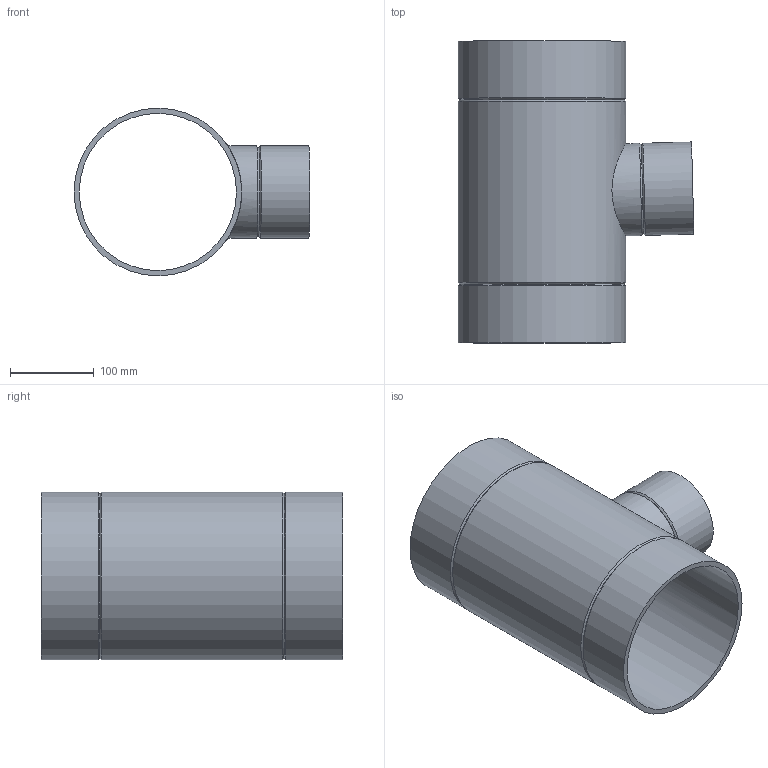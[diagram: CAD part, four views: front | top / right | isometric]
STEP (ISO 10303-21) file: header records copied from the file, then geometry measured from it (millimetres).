
FILE_DESCRIPTION(/* description */ (''),/* implementation_level */ '2;1');
FILE_NAME(/* name */ 'Z:\Geberit\Export\NewStep\370185.stp',/* time_stamp */ '2014-04-02T08:03:55+02:00',/* author */ ('nelson'),/* organization */ (''),/* preprocessor_version */ 'ST-DEVELOPER v15.2',/* originating_system */ 'Autodesk Inventor 2014',/* authorisation */ '');
FILE_SCHEMA (('AUTOMOTIVE_DESIGN { 1 0 10303 214 3 1 1 }'));
Length unit declared in the file: millimetre
Products named in the file (1): 370185
Bounding box: 281.38 x 360 x 200 mm (x, y, z)
Volume: 1424347.2 mm3; surface area: 491788.2 mm2
Topology: 1 solids, 1 shells, 16 faces, 37 edges, 23 vertices
Faces by surface type: cylinder 7, cone 6, plane 3
Full cylindrical faces by diameter (mm): 101.4 x1, 110 x2, 187.6 x1, 200 x3
Entity records: 503 total; most frequent: CARTESIAN_POINT 181, DIRECTION 64, EDGE_LOOP 34, ORIENTED_EDGE 34, AXIS2_PLACEMENT_3D 32, FACE_BOUND 22, VERTEX_POINT 17, EDGE_CURVE 17
